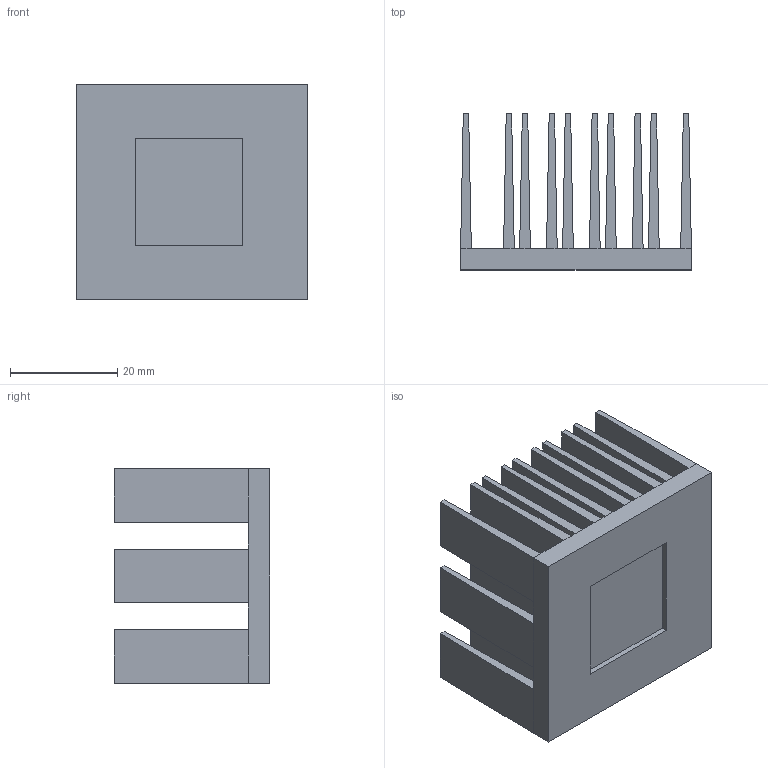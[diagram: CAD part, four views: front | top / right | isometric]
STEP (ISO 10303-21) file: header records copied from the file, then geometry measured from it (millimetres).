
FILE_DESCRIPTION((''),'2;1');
FILE_NAME('','2019-12-18T00:00:00',(''),(''),'','','');
FILE_SCHEMA (('CONFIG_CONTROL_DESIGN'));
Length unit declared in the file: millimetre
Products named in the file (1): Fusion003
Bounding box: 43 x 29 x 40 mm (x, y, z)
Volume: 17730 mm3; surface area: 21137 mm2
Topology: 1 solids, 1 shells, 161 faces, 402 edges, 252 vertices
Faces by surface type: plane 161
Entity records: 9871 total; most frequent: CARTESIAN_POINT 1628, DIRECTION 1522, LINE 1198, VECTOR 1198, ORIENTED_EDGE 804, PCURVE 804, DEFINITIONAL_REPRESENTATION 804, EDGE_CURVE 402
